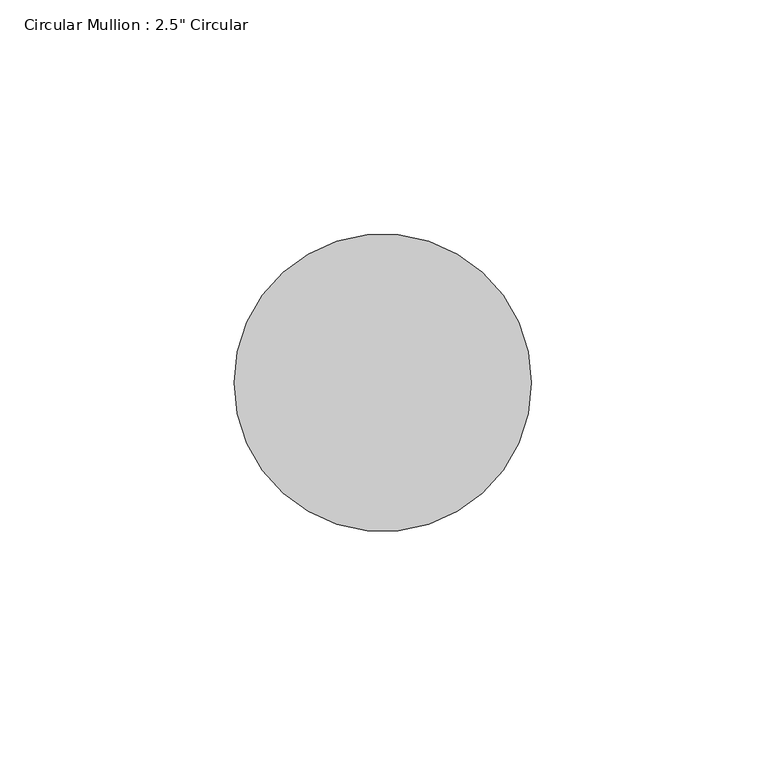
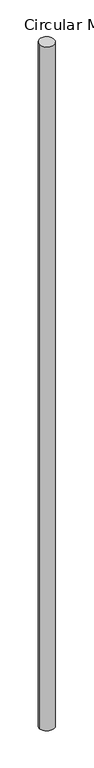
"""IFC4 building model written with IfcOpenShell, lengths in millimetres: member geometry."""

from ifc_helpers import new_model, si_unit, frame, origin, origin_with_axes, place, context, project, spatial, ellipse_curve, source, transform, mapped, element, save
from ifc_brep_helpers import plane_surface, cylinder_surface, advanced_brep


def member_e99998d1(model_context):
    return source(origin(), model_context, "Body", "AdvancedBrep", [
        advanced_brep(
        [(-31.75, 0.0, 0.3640846), (31.75, 0.0, -0.3640846), (31.75, 0.0, -3045.053113), (-31.75, 0.0, -3045.7942123)],
        [
            (0, 1, ellipse_curve(frame((0.0, 0.0, 0.0), z_axis=(-0.011452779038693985, 0.04886655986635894, -0.9987396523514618), x_axis=(-0.22789766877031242, 0.9723906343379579, 0.050190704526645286)), 31.7900665, 31.75)),
            (1, 2),
            (2, 3, ellipse_curve(frame((0.0, 0.0, -3045.4236627), z_axis=(-0.011658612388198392, 0.04428498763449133, 0.9989509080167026), x_axis=(0.2543215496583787, -0.9660349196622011, 0.04579392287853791)), 31.7833437, 31.75)),
            (3, 0),
            (1, 0, ellipse_curve(frame((0.0, 0.0, 0.0), z_axis=(-0.011452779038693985, 0.04886655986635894, -0.9987396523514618), x_axis=(-0.22789766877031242, 0.9723906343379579, 0.050190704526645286)), 31.7900665, 31.75)),
            (3, 2, ellipse_curve(frame((0.0, 0.0, -3045.4236627), z_axis=(-0.011658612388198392, 0.04428498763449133, 0.9989509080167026), x_axis=(0.2543215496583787, -0.9660349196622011, 0.04579392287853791)), 31.7833437, 31.75)),
        ],
        [
            cylinder_surface(origin_with_axes(), 31.75),
            plane_surface(frame((296.7586845, 69.5508677, 0.0), z_axis=(0.011452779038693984, -0.048866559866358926, 0.9987396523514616), x_axis=(0.2278976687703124, -0.9723906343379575, -0.05019070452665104))),
            plane_surface(frame((294.7566704, 77.5986164, -3045.4236627), z_axis=(0.011658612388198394, -0.04428498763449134, -0.9989509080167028), x_axis=(0.25432154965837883, -0.9660349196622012, 0.04579392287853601))),
        ],
        [
            (0, [[1, 2, 3, 4]]),
            (0, [[5, -4, 6, -2]]),
            (1, [[-1, -5]]),
            (2, [[-6, -3]]),
        ],
    ),
    ])


if __name__ == "__main__":
    model = new_model("IFC4")
    model_context = context("Model", 3, world=origin())
    ifc_project = project(units=[si_unit("LENGTHUNIT", "METRE", prefix="MILLI")], contexts=[model_context])
    site = spatial("IfcSite", under=ifc_project)
    building = spatial("IfcBuilding", under=site)
    placement = place(None, origin())
    member_shape = member_e99998d1(model_context)
    element("IfcMember", 1, ObjectType="Circular Mullion : 2.5\" Circular", at=placement, inside=building, context=model_context, shape_type="MappedRepresentation", body=[
        mapped(member_shape, transform((0.0, 0.0, 0.0), x_axis=(1.0, 0.0, 0.0), y_axis=(0.0, 1.0, 0.0), z_axis=(0.0, 0.0, 1.0))),
    ])
    save(model, "model.ifc")
